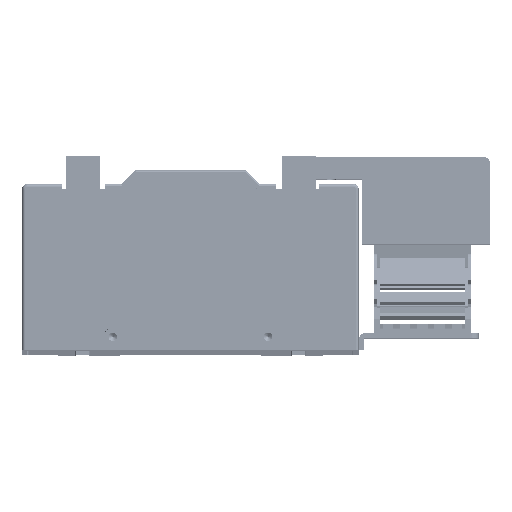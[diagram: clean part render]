
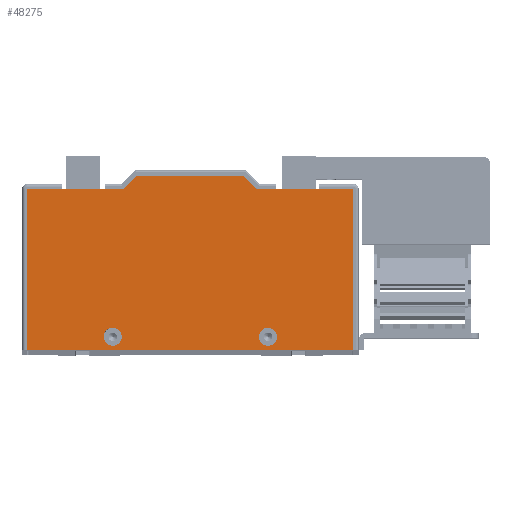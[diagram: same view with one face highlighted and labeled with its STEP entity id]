
A CAD part, top view. The second image highlights one B-rep face of the part: STEP entity #48275.
In plain terms, the highlighted planar face has unit normal (0, 0, 1) as drawn and (0, 0, -1) by its records, which use the part's own axes.
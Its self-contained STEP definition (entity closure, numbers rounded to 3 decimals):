
#47511 = VERTEX_POINT ( 'NONE', #66287 ) ;
#47527 = VERTEX_POINT ( 'NONE', #66331 ) ;
#47530 = EDGE_CURVE ( 'NONE', #47527, #47531, #66328, .T. ) ;
#47531 = VERTEX_POINT ( 'NONE', #66323 ) ;
#47535 = VERTEX_POINT ( 'NONE', #66318 ) ;
#47539 = EDGE_CURVE ( 'NONE', #47511, #47535, #66310, .T. ) ;
#47828 = VERTEX_POINT ( 'NONE', #66808 ) ;
#47843 = VERTEX_POINT ( 'NONE', #66851 ) ;
#47845 = EDGE_CURVE ( 'NONE', #47843, #47846, #66850, .T. ) ;
#47846 = VERTEX_POINT ( 'NONE', #66845 ) ;
#47848 = VERTEX_POINT ( 'NONE', #66836 ) ;
#47863 = EDGE_CURVE ( 'NONE', #47848, #47874, #66875, .T. ) ;
#47874 = VERTEX_POINT ( 'NONE', #66917 ) ;
#47881 = EDGE_CURVE ( 'NONE', #47874, #47828, #66907, .T. ) ;
#48210 = VERTEX_POINT ( 'NONE', #67529 ) ;
#48225 = EDGE_CURVE ( 'NONE', #47828, #48210, #67576, .T. ) ;
#48234 = ORIENTED_EDGE ( 'NONE', *, *, #48235, .F. ) ;
#48235 = EDGE_CURVE ( 'NONE', #48237, #47535, #67561, .T. ) ;
#48237 = VERTEX_POINT ( 'NONE', #67557 ) ;
#48238 = ORIENTED_EDGE ( 'NONE', *, *, #48258, .F. ) ;
#48258 = EDGE_CURVE ( 'NONE', #47848, #48237, #67592, .T. ) ;
#48259 = ORIENTED_EDGE ( 'NONE', *, *, #47863, .T. ) ;
#48260 = ORIENTED_EDGE ( 'NONE', *, *, #47881, .T. ) ;
#48275 = ADVANCED_FACE ( 'NONE', ( #67630, #67629, #67628 ), #67627, .F. ) ;
#48276 = EDGE_LOOP ( 'NONE', ( #48375, #48378 ) ) ;
#48375 = ORIENTED_EDGE ( 'NONE', *, *, #48377, .F. ) ;
#48377 = EDGE_CURVE ( 'NONE', #47846, #47843, #67819, .T. ) ;
#48378 = ORIENTED_EDGE ( 'NONE', *, *, #47845, .F. ) ;
#48391 = EDGE_LOOP ( 'NONE', ( #48393, #48503 ) ) ;
#48393 = ORIENTED_EDGE ( 'NONE', *, *, #48394, .F. ) ;
#48394 = EDGE_CURVE ( 'NONE', #47531, #47527, #67793, .T. ) ;
#48396 = EDGE_CURVE ( 'NONE', #48508, #48210, #67858, .T. ) ;
#48398 = ORIENTED_EDGE ( 'NONE', *, *, #48399, .F. ) ;
#48399 = EDGE_CURVE ( 'NONE', #47511, #48508, #67854, .T. ) ;
#48439 = ORIENTED_EDGE ( 'NONE', *, *, #47539, .T. ) ;
#48503 = ORIENTED_EDGE ( 'NONE', *, *, #47530, .F. ) ;
#48504 = EDGE_LOOP ( 'NONE', ( #48505, #48507, #48398, #48439, #48234, #48238, #48259, #48260 ) ) ;
#48505 = ORIENTED_EDGE ( 'NONE', *, *, #48225, .T. ) ;
#48507 = ORIENTED_EDGE ( 'NONE', *, *, #48396, .F. ) ;
#48508 = VERTEX_POINT ( 'NONE', #67952 ) ;
#66287 = CARTESIAN_POINT ( 'NONE',  ( -49.191, -17.701, 0. ) ) ;
#66305 = CARTESIAN_POINT ( 'NONE',  ( 14.809, -17.701, 0. ) ) ;
#66310 = LINE ( 'NONE', #66305, #66372 ) ;
#66318 = CARTESIAN_POINT ( 'NONE',  ( -111.191, -17.701, 0. ) ) ;
#66323 = CARTESIAN_POINT ( 'NONE',  ( -40.191, 76.299, 0. ) ) ;
#66324 = DIRECTION ( 'NONE',  ( -1., 0., 0. ) ) ;
#66325 = DIRECTION ( 'NONE',  ( 0., 0., -1. ) ) ;
#66326 = CARTESIAN_POINT ( 'NONE',  ( -34.941, 76.299, 0. ) ) ;
#66327 = AXIS2_PLACEMENT_3D ( 'NONE', #66326, #66325, #66324 ) ;
#66328 = CIRCLE ( 'NONE', #66327, 5.25 ) ;
#66331 = CARTESIAN_POINT ( 'NONE',  ( -29.691, 76.299, 0. ) ) ;
#66371 = DIRECTION ( 'NONE',  ( -1., 0., 0. ) ) ;
#66372 = VECTOR ( 'NONE', #66371, 1000. ) ;
#66808 = CARTESIAN_POINT ( 'NONE',  ( 14.809, 84.299, 0. ) ) ;
#66836 = CARTESIAN_POINT ( 'NONE',  ( -175.191, -9.701, 0. ) ) ;
#66845 = CARTESIAN_POINT ( 'NONE',  ( -130.691, 76.299, 0. ) ) ;
#66846 = DIRECTION ( 'NONE',  ( -1., 0., 0. ) ) ;
#66847 = DIRECTION ( 'NONE',  ( 0., 0., -1. ) ) ;
#66848 = CARTESIAN_POINT ( 'NONE',  ( -125.441, 76.299, 0. ) ) ;
#66849 = AXIS2_PLACEMENT_3D ( 'NONE', #66848, #66847, #66846 ) ;
#66850 = CIRCLE ( 'NONE', #66849, 5.25 ) ;
#66851 = CARTESIAN_POINT ( 'NONE',  ( -120.191, 76.299, 0. ) ) ;
#66872 = DIRECTION ( 'NONE',  ( 0., 1., 0. ) ) ;
#66873 = VECTOR ( 'NONE', #66872, 1000. ) ;
#66874 = CARTESIAN_POINT ( 'NONE',  ( -175.191, -17.701, 0. ) ) ;
#66875 = LINE ( 'NONE', #66874, #66873 ) ;
#66904 = DIRECTION ( 'NONE',  ( 1., 0., 0. ) ) ;
#66905 = VECTOR ( 'NONE', #66904, 1000. ) ;
#66906 = CARTESIAN_POINT ( 'NONE',  ( -175.191, 84.299, 0. ) ) ;
#66907 = LINE ( 'NONE', #66906, #66905 ) ;
#66917 = CARTESIAN_POINT ( 'NONE',  ( -175.191, 84.299, 0. ) ) ;
#67529 = CARTESIAN_POINT ( 'NONE',  ( 14.809, -9.701, 0. ) ) ;
#67557 = CARTESIAN_POINT ( 'NONE',  ( -119.191, -9.701, 0. ) ) ;
#67558 = DIRECTION ( 'NONE',  ( 0.707, -0.707, 0. ) ) ;
#67559 = VECTOR ( 'NONE', #67558, 1000. ) ;
#67560 = CARTESIAN_POINT ( 'NONE',  ( -111.191, -17.701, 0. ) ) ;
#67561 = LINE ( 'NONE', #67560, #67559 ) ;
#67573 = DIRECTION ( 'NONE',  ( 0., -1., 0. ) ) ;
#67574 = VECTOR ( 'NONE', #67573, 1000. ) ;
#67575 = CARTESIAN_POINT ( 'NONE',  ( 14.809, 84.299, 0. ) ) ;
#67576 = LINE ( 'NONE', #67575, #67574 ) ;
#67589 = DIRECTION ( 'NONE',  ( 1., 0., 0. ) ) ;
#67590 = VECTOR ( 'NONE', #67589, 1000. ) ;
#67591 = CARTESIAN_POINT ( 'NONE',  ( -119.191, -9.701, 0. ) ) ;
#67592 = LINE ( 'NONE', #67591, #67590 ) ;
#67623 = DIRECTION ( 'NONE',  ( 1., 0., 0. ) ) ;
#67624 = DIRECTION ( 'NONE',  ( 0., 0., 1. ) ) ;
#67625 = CARTESIAN_POINT ( 'NONE',  ( -175.191, 84.299, 0. ) ) ;
#67626 = AXIS2_PLACEMENT_3D ( 'NONE', #67625, #67624, #67623 ) ;
#67627 = PLANE ( 'NONE',  #67626 ) ;
#67628 = FACE_OUTER_BOUND ( 'NONE', #48504, .T. ) ;
#67629 = FACE_BOUND ( 'NONE', #48391, .T. ) ;
#67630 = FACE_BOUND ( 'NONE', #48276, .T. ) ;
#67788 = DIRECTION ( 'NONE',  ( -1., 0., 0. ) ) ;
#67789 = DIRECTION ( 'NONE',  ( 0., 0., -1. ) ) ;
#67791 = CARTESIAN_POINT ( 'NONE',  ( -34.941, 76.299, 0. ) ) ;
#67792 = AXIS2_PLACEMENT_3D ( 'NONE', #67791, #67789, #67788 ) ;
#67793 = CIRCLE ( 'NONE', #67792, 5.25 ) ;
#67815 = DIRECTION ( 'NONE',  ( -1., 0., 0. ) ) ;
#67816 = DIRECTION ( 'NONE',  ( 0., 0., -1. ) ) ;
#67817 = CARTESIAN_POINT ( 'NONE',  ( -125.441, 76.299, 0. ) ) ;
#67818 = AXIS2_PLACEMENT_3D ( 'NONE', #67817, #67816, #67815 ) ;
#67819 = CIRCLE ( 'NONE', #67818, 5.25 ) ;
#67851 = DIRECTION ( 'NONE',  ( 0.707, 0.707, 0. ) ) ;
#67852 = VECTOR ( 'NONE', #67851, 1000. ) ;
#67853 = CARTESIAN_POINT ( 'NONE',  ( -41.191, -9.701, 0. ) ) ;
#67854 = LINE ( 'NONE', #67853, #67852 ) ;
#67855 = DIRECTION ( 'NONE',  ( 1., 0., 0. ) ) ;
#67856 = VECTOR ( 'NONE', #67855, 1000. ) ;
#67857 = CARTESIAN_POINT ( 'NONE',  ( 14.809, -9.701, 0. ) ) ;
#67858 = LINE ( 'NONE', #67857, #67856 ) ;
#67952 = CARTESIAN_POINT ( 'NONE',  ( -41.191, -9.701, 0. ) ) ;
